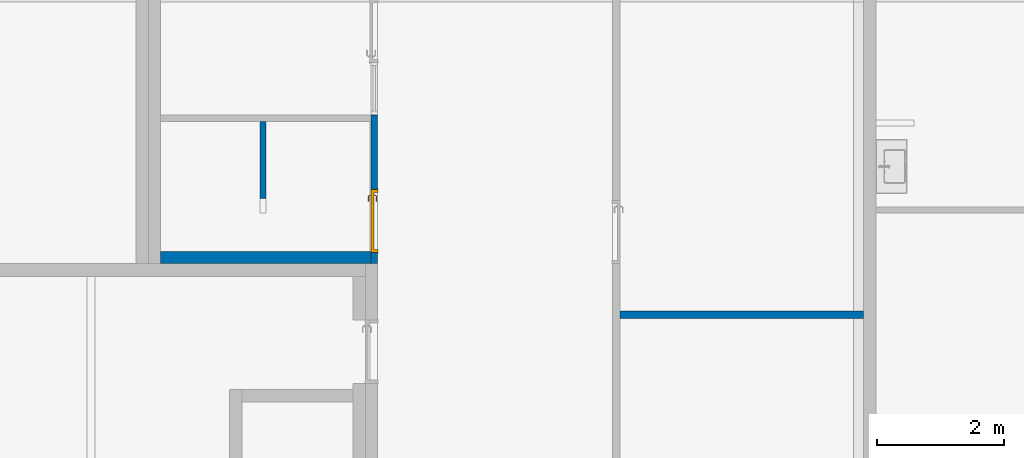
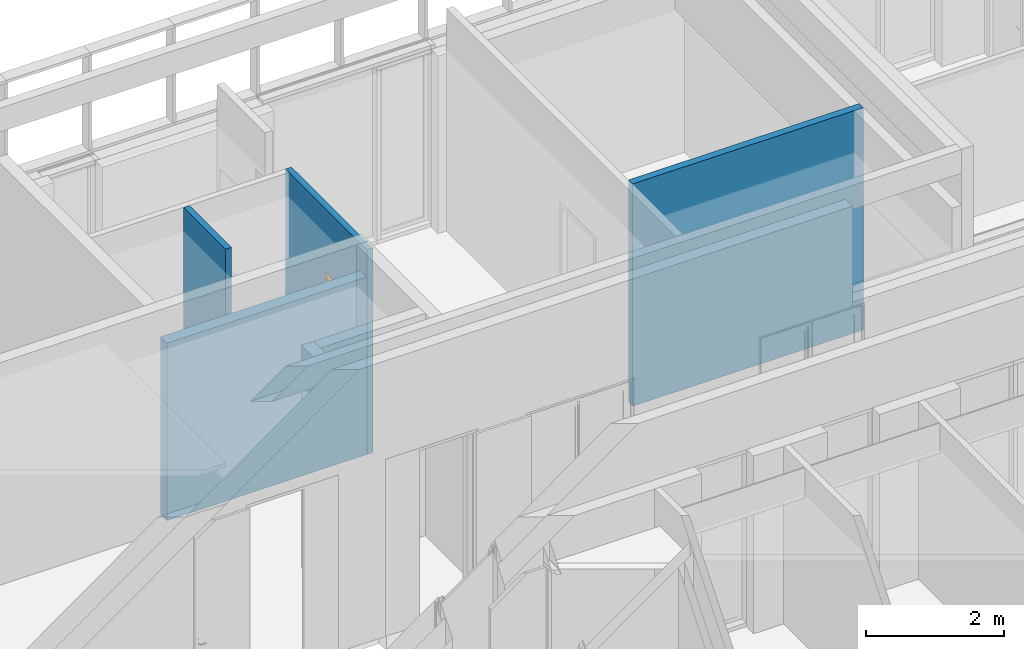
# One storey, part 114 of 240: 4 walls, 1 door, 1 opening.
"""IFC2X3 building model written with IfcOpenShell, lengths in centimetres."""

from ifc_helpers import new_model, entity, si_unit, converted_unit, derived_unit, direction, frame, frame_2d, origin, place, context, subcontext, project, spatial, rectangle, extrude, faceted_brep, source, transform, mapped, material, material_list, layer, layer_set, layer_usage, type_object, type_shapes, element, fill, save


model = new_model("IFC2X3")

# Units and contexts
model_context = context("Model", 3, precision=0.001, world=origin(), true_north=direction((6.12303176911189e-17, 1.0)))
body_context = subcontext(model_context, "Body", "Model", "MODEL_VIEW")
ifc_project = project(units=[si_unit("LENGTHUNIT", "METRE", prefix="CENTI"), si_unit("AREAUNIT", "SQUARE_METRE"), si_unit("VOLUMEUNIT", "CUBIC_METRE"), converted_unit("PLANEANGLEUNIT", "DEGREE", entity("IfcRatioMeasure", 0.0174532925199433), si_unit("PLANEANGLEUNIT", "RADIAN"), dimensions=[0, 0, 0, 0, 0, 0, 0]), si_unit("MASSUNIT", "GRAM", prefix="KILO"), derived_unit("MASSDENSITYUNIT", [(si_unit("MASSUNIT", "GRAM", prefix="KILO"), 1), (si_unit("LENGTHUNIT", "METRE"), -3)]), si_unit("TIMEUNIT", "SECOND"), si_unit("FREQUENCYUNIT", "HERTZ"), si_unit("THERMODYNAMICTEMPERATUREUNIT", "DEGREE_CELSIUS"), derived_unit("THERMALTRANSMITTANCEUNIT", [(si_unit("MASSUNIT", "GRAM", prefix="KILO"), 1), (si_unit("THERMODYNAMICTEMPERATUREUNIT", "KELVIN"), -1), (si_unit("TIMEUNIT", "SECOND"), -3)]), derived_unit("VOLUMETRICFLOWRATEUNIT", [(si_unit("LENGTHUNIT", "METRE"), 3), (si_unit("TIMEUNIT", "SECOND"), -1)]), si_unit("ELECTRICCURRENTUNIT", "AMPERE"), si_unit("ELECTRICVOLTAGEUNIT", "VOLT"), si_unit("POWERUNIT", "WATT"), si_unit("FORCEUNIT", "NEWTON", prefix="KILO"), si_unit("ILLUMINANCEUNIT", "LUX"), si_unit("LUMINOUSFLUXUNIT", "LUMEN"), si_unit("LUMINOUSINTENSITYUNIT", "CANDELA"), derived_unit("USERDEFINED", [(si_unit("MASSUNIT", "GRAM", prefix="KILO"), -1), (si_unit("LENGTHUNIT", "METRE"), -2), (si_unit("TIMEUNIT", "SECOND"), 3), (si_unit("LUMINOUSFLUXUNIT", "LUMEN"), 1)]), derived_unit("LINEARVELOCITYUNIT", [(si_unit("LENGTHUNIT", "METRE"), 1), (si_unit("TIMEUNIT", "SECOND"), -1)]), si_unit("PRESSUREUNIT", "PASCAL"), derived_unit("USERDEFINED", [(si_unit("LENGTHUNIT", "METRE"), -2), (si_unit("MASSUNIT", "GRAM", prefix="KILO"), 1), (si_unit("TIMEUNIT", "SECOND"), -2)])], contexts=[model_context])

# Site, building, storey
site_placement = place(None, frame((-2781.94577612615, 7442.24238424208, 0.0)))
site = spatial("IfcSite", under=ifc_project, at=site_placement, Name="Default", CompositionType="ELEMENT")
building_placement = place(site_placement, origin())
building = spatial("IfcBuilding", under=site, at=building_placement, CompositionType="ELEMENT")
storey_placement = place(building_placement, origin())
storey = spatial("IfcBuildingStorey", under=building, at=storey_placement, Name="N00 - COO", CompositionType="ELEMENT", Elevation=0.0)

# Wall
ifc_material_1 = material(Name="01 - Enduit/Plâtre")
ifc_layer_1 = layer(ifc_material_1, 1.3)
ifc_material_2 = material(Name="00 - Isolant")
ifc_layer_2 = layer(ifc_material_2, 7.4)
ifc_layer_3 = layer(ifc_material_1, 1.3)
ifc_layer_set_1 = layer_set([ifc_layer_1, ifc_layer_2, ifc_layer_3], Name="Mur de base:06 - cloisons - Ba13 10cm")
ifc_layer_usage_1 = layer_usage(ifc_layer_set_1, "AXIS2", "NEGATIVE", 5.0)
wall_type_1 = type_object("IfcWallType", Name="Mur de base:06 - cloisons - Ba13 10cm", PredefinedType="STANDARD", material=ifc_layer_set_1)
wall_1_placement = place(building_placement, frame((-10368.4998776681, -215.0, 0.0), z_axis=(0.0, 0.0, 1.0), x_axis=(0.0, -1.0, 0.0)))
element("IfcWallStandardCase", 1, at=wall_1_placement, inside=storey, type_object=wall_type_1, material=ifc_layer_usage_1, Name="Mur de base:06 - cloisons - Ba13 10cm", ObjectType="Mur de base:06 - cloisons - Ba13 10cm", context=body_context, shape_type="SweptSolid", body=[
    extrude(rectangle(XDim=122.0, YDim=10.0000000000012, at=frame_2d((61.0, 0.0), x_axis=(-1.0, 0.0))), origin(), (0.0, 0.0, 1.0), 361.0),
])

# Wall, opening, door
ifc_layer_usage_2 = layer_usage(ifc_layer_set_1, "AXIS2", "NEGATIVE", 5.0)
wall_2_placement = place(building_placement, frame((-10192.4998776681, -205.0, 0.0), z_axis=(0.0, 0.0, 1.0), x_axis=(0.0, -1.0, 0.0)))
wall_2 = element("IfcWallStandardCase", 2, at=wall_2_placement, inside=storey, type_object=wall_type_1, material=ifc_layer_usage_2, Name="Mur de base:06 - cloisons - Ba13 10cm", ObjectType="Mur de base:06 - cloisons - Ba13 10cm", context=body_context, shape_type="SweptSolid", body=[
    extrude(rectangle(XDim=235.0, YDim=10.0000000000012, at=frame_2d((117.5, -6.11954931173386e-13), x_axis=(-1.0, 0.0))), origin(), (0.0, 0.0, 1.0), 361.0),
])
opening_placement = place(wall_2_placement, frame((217.377432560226, 5.0, 0.0)))
opening = element("IfcOpeningElement", 3, at=opening_placement, cuts=wall_2, Name="Int. Simple:PP simple (0.93m x 2.50m):1", ObjectType="Opening", context=body_context, shape_type="SweptSolid", body=[
    extrude(rectangle(XDim=248.500000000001, YDim=99.9999999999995, at=frame_2d((124.250000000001, 49.9999999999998), x_axis=(1.0, 0.0))), frame((0.0, 0.0, 0.0), z_axis=(0.0, -1.0, 0.0), x_axis=(0.0, 0.0, 1.0)), (0.0, 0.0, 1.0), 10.0),
])
ifc_material_3 = material(Name="Finition Peinture - Blanc satiné")
ifc_material_4 = material(Name="Bois - Panneau de porte")
ifc_material_5 = material(Name="Bois - Cadre de porte")
ifc_material_list_1 = material_list([ifc_material_3, ifc_material_4, ifc_material_5])
ifc_material_list_2 = material_list([ifc_material_3, ifc_material_4, ifc_material_5])
door_style = type_object("IfcDoorStyle", Name="PP simple (0.93m x 2.50m)", ConstructionType="NOTDEFINED", OperationType="SINGLE_SWING_LEFT", ParameterTakesPrecedence=False, Sizeable=False, material=ifc_material_list_2)
shared_shape = source(origin(), body_context, "Body", "Brep", [
    faceted_brep([(10.5352761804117, -0.500000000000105, 86.6003983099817), (11.5000000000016, -0.500000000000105, 87.0), (11.5000000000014, -0.500000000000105, 108.0), (10.5352761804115, -0.500000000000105, 108.399601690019), (9.50000000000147, -0.500000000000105, 108.535898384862), (8.46472381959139, -0.500000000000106, 108.399601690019), (7.50000000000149, -0.500000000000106, 108.0), (7.50000000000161, -0.500000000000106, 87.0), (8.46472381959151, -0.500000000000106, 86.6003983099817), (9.50000000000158, -0.500000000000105, 86.464101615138), (10.5352761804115, 0.0, 108.399601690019), (11.5000000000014, 0.0, 108.0), (11.5000000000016, 0.0, 87.0), (10.5352761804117, 0.0, 86.6003983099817), (9.50000000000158, 0.0, 86.464101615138), (8.46472381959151, 0.0, 86.6003983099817), (7.50000000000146, 0.0, 87.0), (7.50000000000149, 0.0, 108.0), (8.46472381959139, 0.0, 108.399601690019), (9.50000000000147, 0.0, 108.535898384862)], [[[0, 1, 2, 3, 4, 5, 6, 7, 8, 9]], [[10, 11, 12, 13, 14, 15, 16, 17, 18, 19]], [[16, 15, 8, 7]], [[8, 15, 14, 9]], [[14, 13, 0, 9]], [[13, 12, 1, 0]], [[2, 1, 12, 11]], [[11, 10, 3, 2]], [[3, 10, 19, 4]], [[19, 18, 5, 4]], [[18, 17, 6, 5]], [[7, 6, 17, 16]]]),
    faceted_brep([(10.5352761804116, 4.0, 86.6003983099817), (11.5000000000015, 4.0, 87.0), (11.5000000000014, 4.0, 108.0), (10.5352761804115, 4.0, 108.399601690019), (9.50000000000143, 4.0, 108.535898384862), (8.46472381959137, 4.0, 108.399601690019), (7.50000000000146, 4.0, 108.0), (7.50000000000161, 4.0, 87.0), (8.46472381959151, 4.0, 86.6003983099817), (9.50000000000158, 4.0, 86.464101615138), (10.5352761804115, 4.49999999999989, 108.399601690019), (11.5000000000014, 4.49999999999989, 108.0), (11.5000000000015, 4.49999999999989, 87.0), (10.5352761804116, 4.49999999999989, 86.6003983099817), (9.50000000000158, 4.49999999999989, 86.464101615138), (8.46472381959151, 4.49999999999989, 86.6003983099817), (7.50000000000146, 4.49999999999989, 87.0), (7.50000000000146, 4.49999999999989, 108.0), (8.46472381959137, 4.49999999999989, 108.399601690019), (9.50000000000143, 4.49999999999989, 108.535898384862)], [[[0, 1, 2, 3, 4, 5, 6, 7, 8, 9]], [[10, 11, 12, 13, 14, 15, 16, 17, 18, 19]], [[11, 10, 3, 2]], [[3, 10, 19, 4]], [[19, 18, 5, 4]], [[18, 17, 6, 5]], [[7, 6, 17, 16]], [[16, 15, 8, 7]], [[8, 15, 14, 9]], [[14, 13, 0, 9]], [[13, 12, 1, 0]], [[2, 1, 12, 11]]]),
    faceted_brep([(9.29747013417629, -0.500000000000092, 100.778044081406), (9.70252986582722, -0.50000000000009, 100.778044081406), (10.1000000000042, -0.500000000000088, 100.699999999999), (10.1000000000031, -0.500000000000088, 99.3000000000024), (9.7025298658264, -0.50000000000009, 99.2219559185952), (9.29747013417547, -0.500000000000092, 99.221955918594), (8.8999999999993, -0.500000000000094, 99.2999999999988), (8.89999999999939, -0.500000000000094, 100.7), (8.89999999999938, -3.26509507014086, 100.7), (9.29747013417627, -3.10045754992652, 100.778044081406), (10.9023585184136, -4.70534593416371, 100.778044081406), (11.0701397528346, -4.30028620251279, 100.778044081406), (9.7025298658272, -2.93267631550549, 100.778044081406), (10.1000000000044, -2.76803879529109, 100.7), (10.1000000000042, -2.76803879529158, 99.3000000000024), (9.7025298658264, -2.93267631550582, 99.2219559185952), (11.0701397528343, -4.30028620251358, 99.2219559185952), (10.9023585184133, -4.70534593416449, 99.221955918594), (9.29747013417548, -3.10045754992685, 99.221955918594), (8.89999999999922, -3.26509507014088, 99.2999999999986), (10.7377209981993, -5.10281606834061, 100.7), (11.2347772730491, -3.90281606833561, 100.7), (11.2347772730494, -3.90281606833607, 99.3000000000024), (10.7377209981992, -5.10281606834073, 99.2999999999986), (19.5018640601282, -5.10281606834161, 99.2999999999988), (19.5018640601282, -4.70534593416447, 99.221955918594), (19.5018640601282, -4.30028620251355, 99.2219559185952), (19.5018640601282, -3.9028160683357, 99.3000000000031), (19.5018640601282, -3.90281606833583, 100.7), (19.5018640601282, -4.30028620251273, 100.778044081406), (19.5018640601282, -4.70534593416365, 100.778044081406), (19.5018640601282, -5.10281606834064, 100.699999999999), (14.7307697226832, -5.10281606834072, 100.7), (15.2860019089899, -4.5028160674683, 100.78786867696), (15.3683206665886, -3.9028160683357, 100.7), (15.3683206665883, -3.9028160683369, 99.3000000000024), (15.2860018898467, -4.50281607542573, 99.2121313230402), (14.7307700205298, -5.10281606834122, 99.2999999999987)], [[[0, 1, 2, 3, 4, 5, 6, 7]], [[8, 9, 0, 7]], [[9, 10, 11, 12, 1, 0]], [[12, 13, 2, 1]], [[3, 2, 13, 14]], [[14, 15, 4, 3]], [[15, 16, 17, 18, 5, 4]], [[18, 19, 6, 5]], [[7, 6, 19, 8]], [[20, 10, 9, 8]], [[11, 21, 13, 12]], [[14, 13, 21, 22]], [[22, 16, 15, 14]], [[17, 23, 19, 18]], [[8, 19, 23, 20]], [[24, 25, 26, 27, 28, 29, 30, 31]], [[32, 30, 33]], [[31, 30, 32]], [[10, 20, 32]], [[33, 34, 11]], [[21, 11, 34]], [[34, 29, 28]], [[30, 29, 33]], [[29, 34, 33]], [[10, 32, 33]], [[10, 33, 11]], [[22, 21, 34, 28, 27, 35]], [[35, 26, 36]], [[37, 36, 25]], [[22, 35, 16]], [[35, 27, 26]], [[24, 37, 25]], [[23, 17, 37]], [[37, 17, 36]], [[17, 16, 36]], [[16, 35, 36]], [[25, 36, 26]], [[20, 23, 37, 24, 31, 32]]]),
    faceted_brep([(9.29747013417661, 4.49999999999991, 100.778044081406), (8.89999999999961, 4.4999999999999, 100.7), (8.89999999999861, 4.4999999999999, 99.2999999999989), (9.29747013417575, 4.49999999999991, 99.221955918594), (9.70252986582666, 4.49999999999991, 99.2219559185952), (10.1000000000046, 4.49999999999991, 99.3000000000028), (10.1000000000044, 4.49999999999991, 100.7), (9.70252986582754, 4.49999999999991, 100.778044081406), (10.1000000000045, 6.7485204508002, 99.3000000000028), (10.1000000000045, 6.74852045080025, 100.7), (9.70252986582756, 6.91315797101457, 100.778044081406), (11.083890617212, 8.29451872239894, 100.778044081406), (10.916109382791, 8.69957845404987, 100.778044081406), (9.29747013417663, 7.0809392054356, 100.778044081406), (8.89999999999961, 7.24557672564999, 100.7), (8.89999999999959, 7.2455767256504, 99.2999999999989), (9.29747013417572, 7.08093920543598, 99.221955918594), (10.9161093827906, 8.69957845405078, 99.221955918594), (11.0838906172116, 8.29451872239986, 99.2219559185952), (9.70252986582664, 6.91315797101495, 99.2219559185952), (11.2485281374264, 7.89704858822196, 99.3000000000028), (11.2485281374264, 7.89704858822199, 100.7), (10.7514718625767, 9.09704858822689, 100.7), (10.7514718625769, 9.0970485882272, 99.2999999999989), (19.5045783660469, 7.89704858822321, 99.3000000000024), (19.5045783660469, 8.29451872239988, 99.2219559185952), (19.5045783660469, 8.6995784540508, 99.221955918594), (19.5045783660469, 9.09704858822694, 99.2999999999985), (19.5045783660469, 9.09704858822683, 100.7), (19.5045783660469, 8.69957845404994, 100.778044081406), (19.5045783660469, 8.29451872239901, 100.778044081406), (19.5045783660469, 7.89704858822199, 100.7), (15.3765520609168, 7.89704858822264, 99.3000000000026), (15.3765532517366, 7.89704858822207, 100.7), (15.294234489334, 8.49704858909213, 100.78786867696), (14.7445205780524, 9.09704858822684, 100.7), (14.7445204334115, 9.09704858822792, 99.2999999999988), (15.2942345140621, 8.49704858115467, 99.2121313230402)], [[[0, 1, 2, 3, 4, 5, 6, 7]], [[6, 5, 8, 9]], [[9, 10, 7, 6]], [[10, 11, 12, 13, 0, 7]], [[13, 14, 1, 0]], [[2, 1, 14, 15]], [[15, 16, 3, 2]], [[16, 17, 18, 19, 4, 3]], [[19, 8, 5, 4]], [[9, 8, 20, 21]], [[21, 11, 10, 9]], [[12, 22, 14, 13]], [[15, 14, 22, 23]], [[23, 17, 16, 15]], [[18, 20, 8, 19]], [[24, 25, 26, 27, 28, 29, 30, 31]], [[21, 20, 32, 24, 31, 33]], [[33, 30, 34]], [[35, 34, 29]], [[21, 33, 11]], [[33, 31, 30]], [[28, 35, 29]], [[22, 12, 35]], [[35, 12, 34]], [[12, 11, 34]], [[11, 33, 34]], [[29, 34, 30]], [[22, 35, 28, 27, 36, 23]], [[36, 26, 37]], [[27, 26, 36]], [[17, 23, 36]], [[37, 32, 18]], [[20, 18, 32]], [[32, 25, 24]], [[26, 25, 37]], [[25, 32, 37]], [[17, 36, 37]], [[17, 37, 18]]]),
    faceted_brep([(3.50000000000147, 4.0, 245.0), (96.5000000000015, 4.0, 245.0), (96.5000000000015, 4.0, 0.0), (3.50000000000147, 4.0, 0.0), (3.50000000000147, 0.0, 245.0), (3.50000000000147, 0.0, 0.0), (96.5000000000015, 0.0, 0.0), (96.5000000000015, 0.0, 245.0)], [[[0, 1, 2, 3]], [[4, 5, 6, 7]], [[1, 0, 4, 7]], [[2, 1, 7, 6]], [[3, 2, 6, 5]], [[0, 3, 5, 4]]]),
    faceted_brep([(0.0, 10.0, 0.0), (-1.50000000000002, 10.0, 0.0), (-1.50000000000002, 10.5000000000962, 0.0), (5.0, 10.5000000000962, 0.0), (5.0, 4.0, 0.0), (3.50000000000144, 4.0, 0.0), (3.50000000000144, -0.500000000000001, 0.0), (-1.50000000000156, -0.500000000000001, 0.0), (-1.50000000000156, 0.0, 0.0), (0.0, 0.0, 0.0), (0.0, 0.0, 248.500000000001), (0.0, 10.0, 248.500000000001), (100.0, 10.0, 248.500000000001), (100.0, 10.0, 0.0), (101.5, 10.0, 0.0), (101.5, 10.0, 250.0), (-1.50000000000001, 10.0, 250.0), (5.0, 10.5000000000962, 243.5), (5.0, 4.0, 243.5), (95.0, 4.0, 243.5), (95.0, 4.0, 0.0), (96.499999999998, 4.0, 0.0), (96.499999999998, 4.0, 245.0), (3.50000000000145, 4.0, 245.0), (100.0, 0.0, 248.500000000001), (100.0, 0.0, 0.0), (101.500000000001, 0.0, 0.0), (101.500000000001, -0.500000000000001, 0.0), (96.499999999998, -0.500000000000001, 0.0), (95.0, 10.5000000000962, 0.0), (101.5, 10.5000000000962, 0.0), (95.0, 10.5000000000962, 243.5), (3.50000000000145, -0.500000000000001, 245.0), (96.499999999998, -0.500000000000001, 245.0), (101.500000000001, -0.500000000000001, 250.0), (-1.50000000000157, -0.500000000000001, 250.0), (-1.50000000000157, 0.0, 250.0), (101.500000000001, 0.0, 250.0), (-1.50000000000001, 10.5000000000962, 250.0), (101.5, 10.5000000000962, 250.0)], [[[0, 1, 2, 3, 4, 5, 6, 7, 8, 9]], [[0, 9, 10, 11]], [[1, 0, 11, 12, 13, 14, 15, 16]], [[3, 17, 18, 4]], [[5, 4, 18, 19, 20, 21, 22, 23]], [[12, 24, 25, 13]], [[13, 25, 26, 27, 28, 21, 20, 29, 30, 14]], [[19, 31, 29, 20]], [[11, 10, 24, 12]], [[18, 17, 31, 19]], [[5, 23, 32, 6]], [[7, 6, 32, 33, 28, 27, 34, 35]], [[8, 7, 35, 36]], [[9, 8, 36, 37, 26, 25, 24, 10]], [[2, 1, 16, 38]], [[3, 2, 38, 39, 30, 29, 31, 17]], [[33, 22, 21, 28]], [[37, 34, 27, 26]], [[39, 15, 14, 30]], [[32, 23, 22, 33]], [[36, 35, 34, 37]], [[38, 16, 15, 39]]]),
])
type_shapes(door_style, [shared_shape])
door_placement = place(opening_placement, frame((-100.0, -10.0, 0.0)))
door = element("IfcDoor", 4, at=door_placement, inside=storey, type_object=door_style, material=ifc_material_list_1, Name="Int. Simple:PP simple (0.93m x 2.50m)", ObjectType="Int. Simple:PP simple (0.93m x 2.50m)", OverallHeight=248.500000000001, OverallWidth=99.9999999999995, context=body_context, shape_type="MappedRepresentation", body=[
    mapped(shared_shape, transform((0.0, 0.0, 0.0), scale=1.0)),
])
fill(opening, door)

# Walls
ifc_layer_4 = layer(ifc_material_1, 1.0)
ifc_material_6 = material(Name="Maçonnerie - Béton")
ifc_layer_5 = layer(ifc_material_6, 10.0)
ifc_layer_6 = layer(ifc_material_1, 1.0)
ifc_layer_set_2 = layer_set([ifc_layer_4, ifc_layer_5, ifc_layer_6], Name="Mur de base:06 - cloisons - agglos10 + enduit")
ifc_layer_usage_3 = layer_usage(ifc_layer_set_2, "AXIS2", "NEGATIVE", 6.0)
wall_type_2 = type_object("IfcWallType", Name="Mur de base:06 - cloisons - agglos10 + enduit", PredefinedType="STANDARD", material=ifc_layer_set_2)
wall_3_placement = place(building_placement, frame((-9804.49987766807, -520.748500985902, 0.0)))
element("IfcWallStandardCase", 5, at=wall_3_placement, inside=storey, type_object=wall_type_2, material=ifc_layer_usage_3, Name="Mur de base:06 - cloisons - agglos10 + enduit", ObjectType="Mur de base:06 - cloisons - agglos10 + enduit", context=body_context, shape_type="SweptSolid", body=[
    extrude(rectangle(XDim=385.000000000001, YDim=12.0000000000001, at=frame_2d((192.5, 2.22044604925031e-14), x_axis=(-1.0, 0.0))), origin(), (0.0, 0.0, 1.0), 392.0),
])
ifc_layer_7 = layer(ifc_material_2, 17.7)
ifc_layer_8 = layer(ifc_material_1, 1.3)
ifc_layer_set_3 = layer_set([ifc_layer_7, ifc_layer_8], Name="Mur de base:04 - Parement -  isolant 20 cm + BA13 2")
ifc_layer_usage_4 = layer_usage(ifc_layer_set_3, "AXIS2", "POSITIVE", -9.5)
wall_type_3 = type_object("IfcWallType", Name="Mur de base:04 - Parement -  isolant 20 cm + BA13 2", PredefinedType="STANDARD", material=ifc_layer_set_3)
wall_4_placement = place(building_placement, frame((-10530.4998776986, -430.499999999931, 0.0)))
element("IfcWallStandardCase", 6, at=wall_4_placement, inside=storey, type_object=wall_type_3, material=ifc_layer_usage_4, Name="Mur de base:04 - Parement -  isolant 20 cm + BA13 2", ObjectType="Mur de base:04 - Parement -  isolant 20 cm + BA13 2", context=body_context, shape_type="SweptSolid", body=[
    extrude(rectangle(XDim=333.000000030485, YDim=19.0, at=frame_2d((166.500000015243, -3.5527136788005e-15), x_axis=(-1.0, 0.0))), origin(), (0.0, 0.0, 1.0), 313.0),
])

save(model, "model.ifc")
